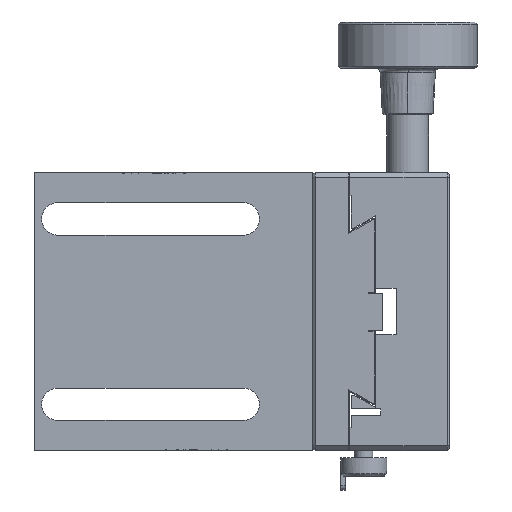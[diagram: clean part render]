
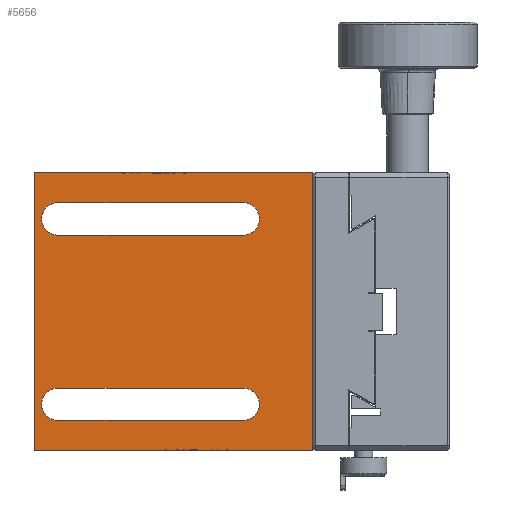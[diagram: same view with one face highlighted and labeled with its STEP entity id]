
A CAD part, left-side view. The second image highlights one B-rep face of the part: STEP entity #5656.
In plain terms, the highlighted planar face has unit normal (-1, 0, 0) as drawn and (1, 0, 0) by its records, which use the part's own axes.
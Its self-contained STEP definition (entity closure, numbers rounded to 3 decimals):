
#97 = CIRCLE ( 'NONE', #6473, 3.5 ) ;
#700 = EDGE_CURVE ( 'NONE', #18022, #24593, #19841, .T. ) ;
#1103 = CARTESIAN_POINT ( 'NONE',  ( 50., 19., -20. ) ) ;
#1534 = DIRECTION ( 'NONE',  ( 0., 0., -1. ) ) ;
#1631 = VERTEX_POINT ( 'NONE', #25817 ) ;
#1664 = CARTESIAN_POINT ( 'NONE',  ( 50., 19., 23.5 ) ) ;
#1730 = VERTEX_POINT ( 'NONE', #23488 ) ;
#2019 = EDGE_LOOP ( 'NONE', ( #18688, #22462, #16711, #5353 ) ) ;
#2063 = ORIENTED_EDGE ( 'NONE', *, *, #24679, .T. ) ;
#2544 = CARTESIAN_POINT ( 'NONE',  ( 50., 64., -30. ) ) ;
#2903 = LINE ( 'NONE', #28359, #13789 ) ;
#2958 = CARTESIAN_POINT ( 'NONE',  ( 50., 64., -23.5 ) ) ;
#3142 = CARTESIAN_POINT ( 'NONE',  ( 50., 59., -16.5 ) ) ;
#3408 = EDGE_CURVE ( 'NONE', #24593, #1730, #27817, .T. ) ;
#3844 = FACE_BOUND ( 'NONE', #2019, .T. ) ;
#4051 = LINE ( 'NONE', #7134, #20231 ) ;
#4549 = CARTESIAN_POINT ( 'NONE',  ( 50., 4., -30. ) ) ;
#4772 = VECTOR ( 'NONE', #19079, 1000. ) ;
#5353 = ORIENTED_EDGE ( 'NONE', *, *, #15548, .F. ) ;
#5505 = LINE ( 'NONE', #2544, #28670 ) ;
#5656 = ADVANCED_FACE ( 'NONE', ( #3844, #14360, #13327 ), #7453, .F. ) ;
#6280 = DIRECTION ( 'NONE',  ( 1., 0., 0. ) ) ;
#6424 = VECTOR ( 'NONE', #25900, 1000. ) ;
#6473 = AXIS2_PLACEMENT_3D ( 'NONE', #17493, #6280, #24251 ) ;
#7134 = CARTESIAN_POINT ( 'NONE',  ( 50., 4., -30. ) ) ;
#7148 = EDGE_CURVE ( 'NONE', #1730, #17593, #21011, .T. ) ;
#7365 = DIRECTION ( 'NONE',  ( -1., 0., 0. ) ) ;
#7453 = PLANE ( 'NONE',  #10732 ) ;
#7914 = CARTESIAN_POINT ( 'NONE',  ( 50., 64., 30. ) ) ;
#8704 = EDGE_CURVE ( 'NONE', #9042, #9017, #14879, .T. ) ;
#9017 = VERTEX_POINT ( 'NONE', #4549 ) ;
#9042 = VERTEX_POINT ( 'NONE', #13649 ) ;
#9717 = CARTESIAN_POINT ( 'NONE',  ( 50., 64., -30. ) ) ;
#9800 = CARTESIAN_POINT ( 'NONE',  ( 50., 59., 20. ) ) ;
#9920 = DIRECTION ( 'NONE',  ( 0., -1., 0. ) ) ;
#10720 = EDGE_CURVE ( 'NONE', #12542, #14999, #19706, .T. ) ;
#10732 = AXIS2_PLACEMENT_3D ( 'NONE', #9717, #7365, #12080 ) ;
#11765 = ORIENTED_EDGE ( 'NONE', *, *, #3408, .F. ) ;
#12080 = DIRECTION ( 'NONE',  ( 0., 0., 1. ) ) ;
#12542 = VERTEX_POINT ( 'NONE', #1664 ) ;
#12927 = DIRECTION ( 'NONE',  ( 1., 0., 0. ) ) ;
#13327 = FACE_OUTER_BOUND ( 'NONE', #17207, .T. ) ;
#13649 = CARTESIAN_POINT ( 'NONE',  ( 50., 64., -30. ) ) ;
#13789 = VECTOR ( 'NONE', #21241, 1000. ) ;
#14039 = CARTESIAN_POINT ( 'NONE',  ( 50., 59., 16.5 ) ) ;
#14360 = FACE_BOUND ( 'NONE', #14389, .T. ) ;
#14389 = EDGE_LOOP ( 'NONE', ( #25270, #11765, #22027, #20013 ) ) ;
#14879 = LINE ( 'NONE', #27787, #26122 ) ;
#14999 = VERTEX_POINT ( 'NONE', #22826 ) ;
#15011 = VECTOR ( 'NONE', #18687, 1000. ) ;
#15206 = LINE ( 'NONE', #23835, #6424 ) ;
#15548 = EDGE_CURVE ( 'NONE', #14999, #26419, #16341, .T. ) ;
#16341 = LINE ( 'NONE', #18775, #4772 ) ;
#16711 = ORIENTED_EDGE ( 'NONE', *, *, #20344, .F. ) ;
#16843 = DIRECTION ( 'NONE',  ( 1., 0., 0. ) ) ;
#17207 = EDGE_LOOP ( 'NONE', ( #22011, #17671, #2063, #28271 ) ) ;
#17493 = CARTESIAN_POINT ( 'NONE',  ( 50., 59., -20. ) ) ;
#17500 = EDGE_CURVE ( 'NONE', #1631, #12542, #2903, .T. ) ;
#17593 = VERTEX_POINT ( 'NONE', #19465 ) ;
#17668 = EDGE_CURVE ( 'NONE', #17593, #18022, #97, .T. ) ;
#17671 = ORIENTED_EDGE ( 'NONE', *, *, #18175, .F. ) ;
#18022 = VERTEX_POINT ( 'NONE', #3142 ) ;
#18169 = DIRECTION ( 'NONE',  ( 0., 0., -1. ) ) ;
#18175 = EDGE_CURVE ( 'NONE', #22309, #19814, #15206, .T. ) ;
#18353 = DIRECTION ( 'NONE',  ( 0., 0., -1. ) ) ;
#18687 = DIRECTION ( 'NONE',  ( 0., 1., 0. ) ) ;
#18688 = ORIENTED_EDGE ( 'NONE', *, *, #10720, .F. ) ;
#18775 = CARTESIAN_POINT ( 'NONE',  ( 50., 64., 16.5 ) ) ;
#19041 = CIRCLE ( 'NONE', #27580, 3.5 ) ;
#19079 = DIRECTION ( 'NONE',  ( 0., 1., 0. ) ) ;
#19114 = DIRECTION ( 'NONE',  ( 0., 0., -1. ) ) ;
#19465 = CARTESIAN_POINT ( 'NONE',  ( 50., 59., -23.5 ) ) ;
#19540 = CARTESIAN_POINT ( 'NONE',  ( 50., 19., 20. ) ) ;
#19706 = CIRCLE ( 'NONE', #22099, 3.5 ) ;
#19814 = VERTEX_POINT ( 'NONE', #7914 ) ;
#19841 = LINE ( 'NONE', #23626, #23690 ) ;
#20013 = ORIENTED_EDGE ( 'NONE', *, *, #17668, .F. ) ;
#20231 = VECTOR ( 'NONE', #18353, 1000. ) ;
#20344 = EDGE_CURVE ( 'NONE', #26419, #1631, #19041, .T. ) ;
#21011 = LINE ( 'NONE', #2958, #15011 ) ;
#21241 = DIRECTION ( 'NONE',  ( 0., -1., 0. ) ) ;
#22011 = ORIENTED_EDGE ( 'NONE', *, *, #27738, .F. ) ;
#22027 = ORIENTED_EDGE ( 'NONE', *, *, #700, .F. ) ;
#22099 = AXIS2_PLACEMENT_3D ( 'NONE', #19540, #12927, #1534 ) ;
#22309 = VERTEX_POINT ( 'NONE', #25761 ) ;
#22462 = ORIENTED_EDGE ( 'NONE', *, *, #17500, .F. ) ;
#22826 = CARTESIAN_POINT ( 'NONE',  ( 50., 19., 16.5 ) ) ;
#23488 = CARTESIAN_POINT ( 'NONE',  ( 50., 19., -23.5 ) ) ;
#23626 = CARTESIAN_POINT ( 'NONE',  ( 50., 64., -16.5 ) ) ;
#23690 = VECTOR ( 'NONE', #28134, 1000. ) ;
#23835 = CARTESIAN_POINT ( 'NONE',  ( 50., 64., 30. ) ) ;
#23948 = CARTESIAN_POINT ( 'NONE',  ( 50., 19., -16.5 ) ) ;
#24251 = DIRECTION ( 'NONE',  ( 0., 0., -1. ) ) ;
#24593 = VERTEX_POINT ( 'NONE', #23948 ) ;
#24679 = EDGE_CURVE ( 'NONE', #22309, #9017, #4051, .T. ) ;
#25270 = ORIENTED_EDGE ( 'NONE', *, *, #7148, .F. ) ;
#25518 = DIRECTION ( 'NONE',  ( 1., 0., 0. ) ) ;
#25761 = CARTESIAN_POINT ( 'NONE',  ( 50., 4., 30. ) ) ;
#25817 = CARTESIAN_POINT ( 'NONE',  ( 50., 59., 23.5 ) ) ;
#25900 = DIRECTION ( 'NONE',  ( 0., 1., 0. ) ) ;
#26122 = VECTOR ( 'NONE', #9920, 1000. ) ;
#26299 = AXIS2_PLACEMENT_3D ( 'NONE', #1103, #16843, #19114 ) ;
#26419 = VERTEX_POINT ( 'NONE', #14039 ) ;
#27580 = AXIS2_PLACEMENT_3D ( 'NONE', #9800, #25518, #27759 ) ;
#27738 = EDGE_CURVE ( 'NONE', #19814, #9042, #5505, .T. ) ;
#27759 = DIRECTION ( 'NONE',  ( 0., 0., -1. ) ) ;
#27787 = CARTESIAN_POINT ( 'NONE',  ( 50., 64., -30. ) ) ;
#27817 = CIRCLE ( 'NONE', #26299, 3.5 ) ;
#28134 = DIRECTION ( 'NONE',  ( 0., -1., 0. ) ) ;
#28271 = ORIENTED_EDGE ( 'NONE', *, *, #8704, .F. ) ;
#28359 = CARTESIAN_POINT ( 'NONE',  ( 50., 64., 23.5 ) ) ;
#28670 = VECTOR ( 'NONE', #18169, 1000. ) ;
